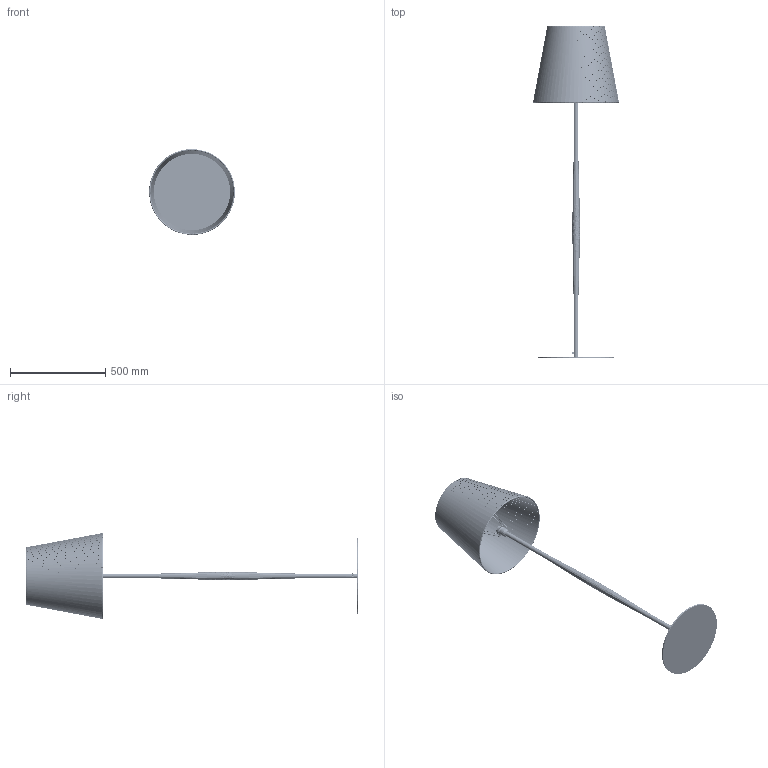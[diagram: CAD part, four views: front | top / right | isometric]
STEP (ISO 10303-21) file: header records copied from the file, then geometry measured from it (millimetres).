
FILE_DESCRIPTION( ( 'STEP AP203' ), '1' );
FILE_NAME( '//srvbf/BF Disegni/BETTY/BETTY-P Piantana 3D.stp', '2020-10-16T14:02:19', ( ' ' ), ( ' ' ), 'XStep 1.0', ' ', ' ' );
FILE_SCHEMA( ( 'CONFIG_CONTROL_DESIGN) ( )' ) );
Length unit declared in the file: metre
Products named in the file (92): Assem1; 1; 2; 3; 4; 5; 6; 7; 8; 9; 10; 11; 12; 13; 14; 15; 16; 17; 18; 19; 20; 21; 22; 23; 24; 25; 26; 27; 28; 29; 30; 31; 32; 33; 34; 35; 36; 37; 38; 39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
Bounding box: 450.91 x 1740.98 x 450.36 mm (x, y, z)
Volume: 5841842.8 mm3; surface area: 6547129.4 mm2
Topology: 182 solids, 182 shells, 8876 faces, 18156 edges, 9638 vertices
Faces by surface type: cone 4878, cylinder 2542, bspline 996, plane 380, torus 80
Full cylindrical faces by diameter (mm): 3 x16, 4 x8, 5 x54, 5.51 x24, 6.122 x2, 6.5 x2, 7 x2, 7.143 x4, 9 x2340, 9.184 x32, 9.5 x2, 10 x6, 11 x4, 21.8 x4, 22 x12, 25 x4, 34.547 x2, 38.547 x2, 40 x4, 42.573 x2, 45.517 x2, 60 x4, 400 x4
Entity records: 140392 total; most frequent: CARTESIAN_POINT 59989, DIRECTION 16186, ORIENTED_EDGE 10632, EDGE_LOOP 8342, AXIS2_PLACEMENT_3D 7832, FACE_OUTER_BOUND 5744, EDGE_CURVE 5316, VERTEX_POINT 4807
